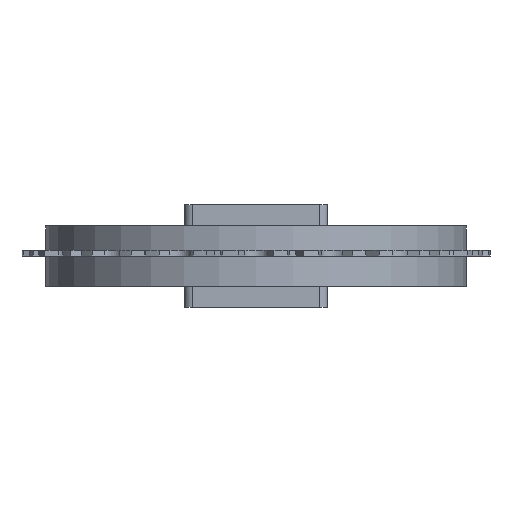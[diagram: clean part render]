
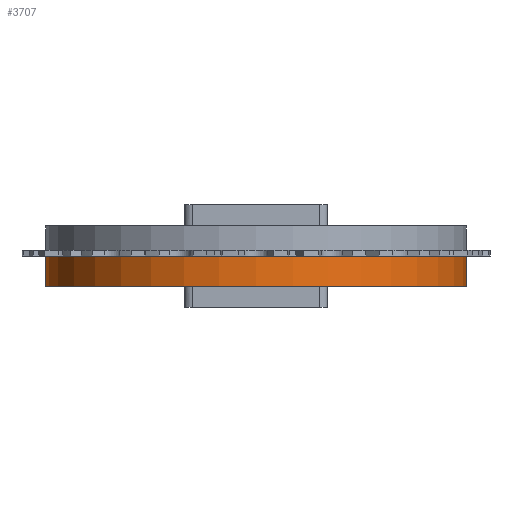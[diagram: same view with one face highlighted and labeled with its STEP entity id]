
A CAD part, front view. The second image highlights one B-rep face of the part: STEP entity #3707.
In plain terms, the highlighted cylindrical face has radius 73.5 mm (diameter 147 mm), a partial arc.
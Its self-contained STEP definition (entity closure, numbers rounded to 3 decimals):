
#1607=CARTESIAN_POINT('Axis2P3D Location',(0.,0.,-10.5)) ;
#1611=CARTESIAN_POINT('Vertex',(-73.5,0.,-10.5)) ;
#1613=CARTESIAN_POINT('Vertex',(73.5,0.,-10.5)) ;
#3665=CARTESIAN_POINT('Axis2P3D Location',(0.,0.,0.)) ;
#3670=CARTESIAN_POINT('Line Origine',(73.5,0.,11.25)) ;
#3674=CARTESIAN_POINT('Vertex',(73.5,0.,0.)) ;
#3677=CARTESIAN_POINT('Line Origine',(-73.5,0.,11.25)) ;
#3681=CARTESIAN_POINT('Vertex',(-73.5,0.,0.)) ;
#3696=CARTESIAN_POINT('Axis2P3D Location',(0.,0.,0.)) ;
#1608=DIRECTION('Axis2P3D Direction',(0.,0.,1.)) ;
#3666=DIRECTION('Axis2P3D Direction',(0.,0.,1.)) ;
#3667=DIRECTION('Axis2P3D XDirection',(1.,0.,0.)) ;
#3671=DIRECTION('Vector Direction',(0.,0.,1.)) ;
#3678=DIRECTION('Vector Direction',(0.,0.,1.)) ;
#3697=DIRECTION('Axis2P3D Direction',(0.,0.,1.)) ;
#1609=AXIS2_PLACEMENT_3D('Circle Axis2P3D',#1607,#1608,$) ;
#3668=AXIS2_PLACEMENT_3D('Cylinder Axis2P3D',#3665,#3666,#3667) ;
#3698=AXIS2_PLACEMENT_3D('Circle Axis2P3D',#3696,#3697,$) ;
#3702=ORIENTED_EDGE('',*,*,#3683,.F.) ;
#3703=ORIENTED_EDGE('',*,*,#1615,.T.) ;
#3704=ORIENTED_EDGE('',*,*,#3676,.T.) ;
#3705=ORIENTED_EDGE('',*,*,#3700,.F.) ;
#3672=VECTOR('Line Direction',#3671,1.) ;
#3679=VECTOR('Line Direction',#3678,1.) ;
#3707=ADVANCED_FACE('PartBody',(#3706),#3669,.T.) ;
#1610=CIRCLE('generated circle',#1609,73.5) ;
#3699=CIRCLE('generated circle',#3698,73.5) ;
#3669=CYLINDRICAL_SURFACE('generated cylinder',#3668,73.5) ;
#1615=EDGE_CURVE('',#1612,#1614,#1610,.T.) ;
#3676=EDGE_CURVE('',#1614,#3675,#3673,.T.) ;
#3683=EDGE_CURVE('',#1612,#3682,#3680,.T.) ;
#3700=EDGE_CURVE('',#3682,#3675,#3699,.T.) ;
#3701=EDGE_LOOP('',(#3702,#3703,#3704,#3705)) ;
#3706=FACE_OUTER_BOUND('',#3701,.T.) ;
#3673=LINE('Line',#3670,#3672) ;
#3680=LINE('Line',#3677,#3679) ;
#1612=VERTEX_POINT('',#1611) ;
#1614=VERTEX_POINT('',#1613) ;
#3675=VERTEX_POINT('',#3674) ;
#3682=VERTEX_POINT('',#3681) ;
